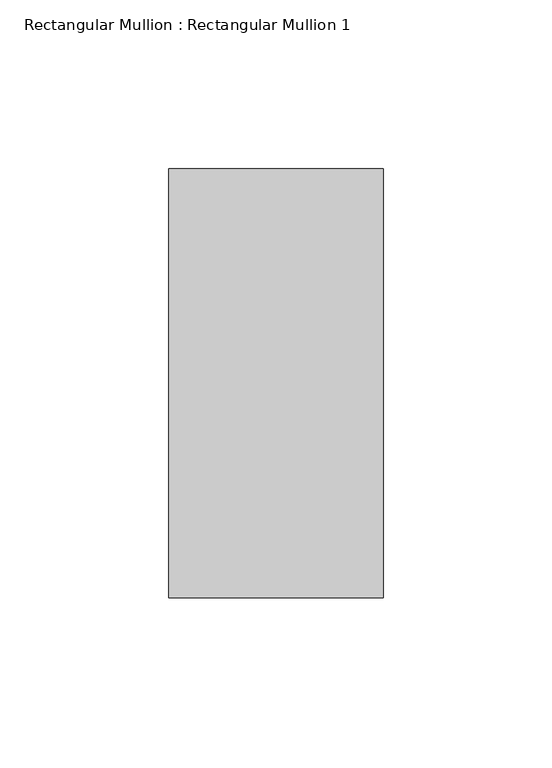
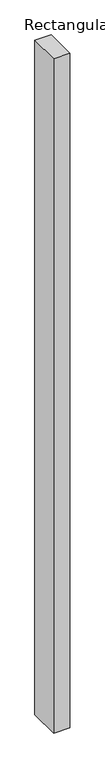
"""IFC4 building model written with IfcOpenShell, lengths in millimetres: member geometry, Rectangular Mullion : Rectangular Mullion 1."""

from ifc_helpers import new_model, si_unit, frame, origin, place, context, project, spatial, polyline, outline, extrude, source, transform, mapped, element, save


def rectangular_mullion_rectangular_mullion_1_b61fd584(model_context):
    return source(origin(), model_context, "Body", "SweptSolid", [
        extrude(outline(polyline([(31.75, 63.5), (31.75, -63.5), (-31.75, -63.5), (-31.75, 63.5), (31.75, 63.5)])), frame((0.0, 0.0, -2800.0), z_axis=(0.0, 0.0, 1.0), x_axis=(1.0, 0.0, 0.0)), (0.0, 0.0, 1.0), 2800.0),
    ])


if __name__ == "__main__":
    model = new_model("IFC4")
    model_context = context("Model", 3, world=origin())
    ifc_project = project(units=[si_unit("LENGTHUNIT", "METRE", prefix="MILLI")], contexts=[model_context])
    site = spatial("IfcSite", under=ifc_project)
    building = spatial("IfcBuilding", under=site)
    placement = place(None, origin())
    rectangular_mullion_rectangular_mullion_1_shape = rectangular_mullion_rectangular_mullion_1_b61fd584(model_context)
    element("IfcMember", 1, ObjectType="Rectangular Mullion : Rectangular Mullion 1", at=placement, inside=building, context=model_context, shape_type="MappedRepresentation", body=[
        mapped(rectangular_mullion_rectangular_mullion_1_shape, transform((0.0, 0.0, 0.0), x_axis=(1.0, 0.0, 0.0), y_axis=(0.0, 1.0, 0.0), z_axis=(0.0, 0.0, 1.0))),
    ])
    save(model, "model.ifc")
